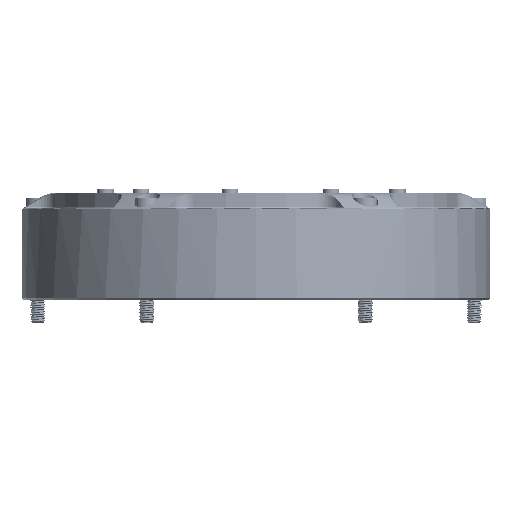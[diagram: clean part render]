
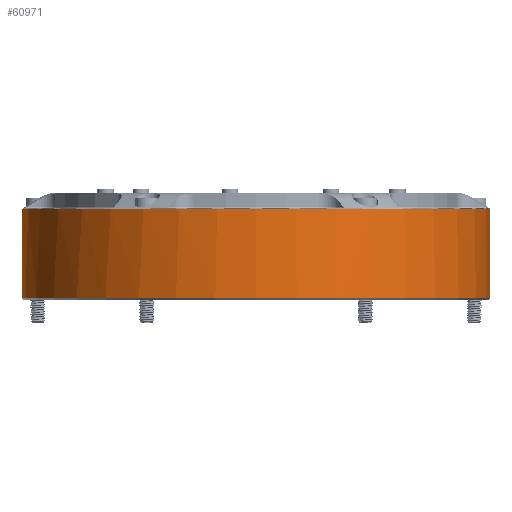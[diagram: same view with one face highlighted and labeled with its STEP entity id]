
A CAD part, front view. The second image highlights one B-rep face of the part: STEP entity #60971.
In plain terms, the highlighted cylindrical face has radius 126.5 mm (diameter 253 mm), a full revolution.
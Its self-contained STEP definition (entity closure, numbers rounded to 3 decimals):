
#3995=B_SPLINE_CURVE_WITH_KNOTS('',3,(#96502,#96503,#96504,#96505),
 .UNSPECIFIED.,.F.,.F.,(4,4),(0.,0.001),
 .UNSPECIFIED.);
#3996=B_SPLINE_CURVE_WITH_KNOTS('',3,(#96509,#96510,#96511,#96512),
 .UNSPECIFIED.,.F.,.F.,(4,4),(0.,0.001),
 .UNSPECIFIED.);
#9175=LINE('',#96500,#10015);
#9176=LINE('',#96514,#10016);
#10015=VECTOR('',#76899,1000.);
#10016=VECTOR('',#76902,1000.);
#13988=ORIENTED_EDGE('',*,*,#33526,.F.);
#13989=ORIENTED_EDGE('',*,*,#33675,.T.);
#13990=ORIENTED_EDGE('',*,*,#33676,.F.);
#13991=ORIENTED_EDGE('',*,*,#33677,.T.);
#13992=ORIENTED_EDGE('',*,*,#33678,.F.);
#13993=ORIENTED_EDGE('',*,*,#33679,.T.);
#13994=ORIENTED_EDGE('',*,*,#33680,.T.);
#33526=EDGE_CURVE('',#43627,#43628,#50211,.F.);
#33675=EDGE_CURVE('',#43627,#43724,#9175,.F.);
#33676=EDGE_CURVE('',#43725,#43724,#3995,.T.);
#33677=EDGE_CURVE('',#43725,#43726,#50264,.F.);
#33678=EDGE_CURVE('',#43727,#43726,#3996,.T.);
#33679=EDGE_CURVE('',#43727,#43628,#9176,.T.);
#33680=EDGE_CURVE('',#43728,#43728,#50265,.T.);
#43627=VERTEX_POINT('',#95914);
#43628=VERTEX_POINT('',#95916);
#43724=VERTEX_POINT('',#96501);
#43725=VERTEX_POINT('',#96506);
#43726=VERTEX_POINT('',#96508);
#43727=VERTEX_POINT('',#96513);
#43728=VERTEX_POINT('',#96516);
#50211=CIRCLE('',#68523,126.5);
#50264=CIRCLE('',#68616,126.5);
#50265=CIRCLE('',#68617,126.5);
#53062=EDGE_LOOP('',(#13988,#13989,#13990,#13991,#13992,#13993));
#53063=EDGE_LOOP('',(#13994));
#56811=FACE_BOUND('',#53062,.T.);
#56812=FACE_BOUND('',#53063,.T.);
#60196=CYLINDRICAL_SURFACE('',#68615,126.5);
#60971=ADVANCED_FACE('',(#56811,#56812),#60196,.T.);
#68523=AXIS2_PLACEMENT_3D('',#95915,#76676,#76677);
#68615=AXIS2_PLACEMENT_3D('',#96499,#76897,#76898);
#68616=AXIS2_PLACEMENT_3D('',#96507,#76900,#76901);
#68617=AXIS2_PLACEMENT_3D('',#96515,#76903,#76904);
#76676=DIRECTION('',(0.,0.,-1.));
#76677=DIRECTION('',(0.,1.,0.));
#76897=DIRECTION('',(0.,0.,1.));
#76898=DIRECTION('',(0.,-1.,0.));
#76899=DIRECTION('',(0.,0.,1.));
#76900=DIRECTION('',(0.,0.,1.));
#76901=DIRECTION('',(1.,0.,0.));
#76902=DIRECTION('',(0.,0.,1.));
#76903=DIRECTION('',(0.,0.,1.));
#76904=DIRECTION('',(0.,-1.,0.));
#95914=CARTESIAN_POINT('',(-126.253,-7.899,49.337));
#95915=CARTESIAN_POINT('',(0.,0.,49.337));
#95916=CARTESIAN_POINT('',(-126.253,7.899,49.337));
#96499=CARTESIAN_POINT('',(0.,0.,0.762));
#96500=CARTESIAN_POINT('',(-126.253,-7.899,49.337));
#96501=CARTESIAN_POINT('',(-126.253,-7.899,47.244));
#96502=CARTESIAN_POINT('',(-126.298,-7.139,46.482));
#96503=CARTESIAN_POINT('',(-126.276,-7.54,46.482));
#96504=CARTESIAN_POINT('',(-126.253,-7.899,46.841));
#96505=CARTESIAN_POINT('',(-126.253,-7.899,47.244));
#96506=CARTESIAN_POINT('',(-126.298,-7.139,46.482));
#96507=CARTESIAN_POINT('',(0.,0.,46.482));
#96508=CARTESIAN_POINT('',(-126.298,7.139,46.482));
#96509=CARTESIAN_POINT('',(-126.253,7.899,47.244));
#96510=CARTESIAN_POINT('',(-126.253,7.899,46.841));
#96511=CARTESIAN_POINT('',(-126.276,7.54,46.482));
#96512=CARTESIAN_POINT('',(-126.298,7.139,46.482));
#96513=CARTESIAN_POINT('',(-126.253,7.899,47.244));
#96514=CARTESIAN_POINT('',(-126.253,7.899,47.244));
#96515=CARTESIAN_POINT('',(0.,0.,0.762));
#96516=CARTESIAN_POINT('',(0.,-126.5,0.762));
